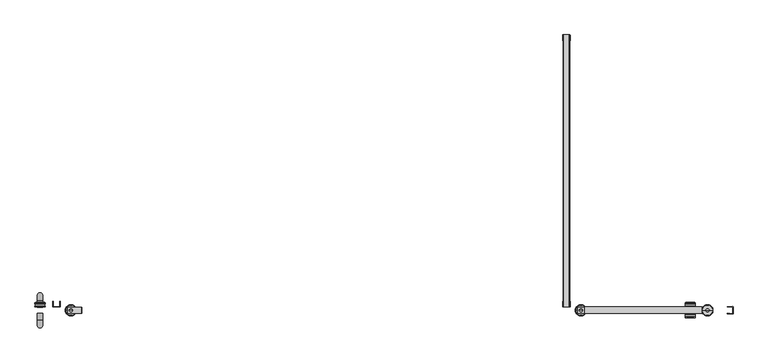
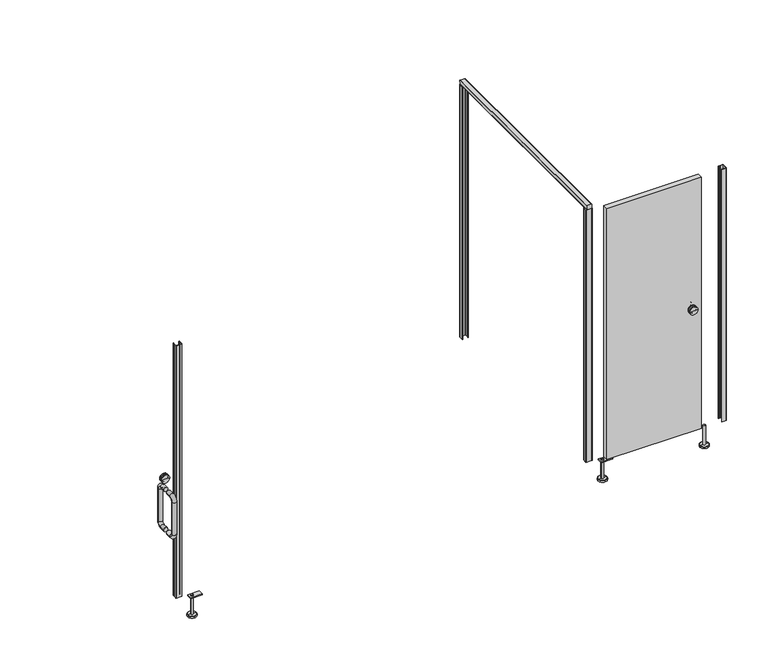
"""IFC4 building model written with IfcOpenShell, lengths in millimetres: proxy geometry, Partition_EuroStyle-Bradley_Corp-1AMB-4StandardStall-NEP-LOFT : Partition_EuroStyle-Bradley_Corp-1AMB-4StandardStall-NEP-LOFT."""

from ifc_helpers import new_model, si_unit, point, frame, frame_2d, origin, place, context, project, spatial, polyline, circle_curve, ellipse_curve, trimmed, segment, composite_curve, outline, extrude, source, transform, mapped, element, save
from ifc_brep_helpers import plane_surface, cylinder_surface, revolved_surface, advanced_brep


def specialty_equipment_88d71848(model_context):
    return source(origin(), model_context, "Body", "SolidModel", [
        extrude(outline(composite_curve([segment(polyline([(2032.9666591, 3638.6203701), (2005.7492965, 3639.0741806)]), True, "CONTINUOUS"), segment(trimmed(circle_curve(frame_2d((2005.762, 3639.8360747)), 0.762), [point((2005.7492965, 3639.0741806))], [point((2005.0, 3639.8360747))], False, "CARTESIAN"), True, "CONTINUOUS"), segment(polyline([(2005.0, 3639.8360747), (2005.0, 3673.3733505)]), True, "CONTINUOUS"), segment(trimmed(circle_curve(frame_2d((2005.79375, 3673.3733505)), 0.79375), [point((2005.0, 3673.3733505))], [point((2005.7805172, 3674.1669902))], False, "CARTESIAN"), True, "CONTINUOUS"), segment(polyline([(2005.7805172, 3674.1669902), (2032.9666591, 3674.6202802)]), True, "CONTINUOUS"), segment(trimmed(circle_curve(frame_2d((2033.0000015, 3672.6205597)), 1.9999985), [point((2032.9666591, 3674.6202802))], [point((2035.0, 3672.6205597))], False, "CARTESIAN"), True, "CONTINUOUS"), segment(polyline([(2035.0, 3672.6205597), (2035.0, 3640.6200907)]), True, "CONTINUOUS"), segment(trimmed(circle_curve(frame_2d((2033.0000015, 3640.6200907)), 1.9999985), [point((2035.0, 3640.6200907))], [point((2032.9666591, 3638.6203701))], False, "CARTESIAN"), True, "CONTINUOUS")], self_intersect=False)), frame((0.0, -1524.0, 0.0), z_axis=(0.0, 1.0, 0.0), x_axis=(0.0, 0.0, 1.0)), (0.0, 0.0, 1.0), 1524.0),
        extrude(outline(composite_curve([segment(polyline([(3636.1288796, -1491.4999998), (3637.6274652, -1491.4999998)]), True, "CONTINUOUS"), segment(trimmed(circle_curve(frame_2d((3637.6238978, -1492.4990918)), 0.9990984), [point((3637.6274652, -1491.4999998))], [point((3638.0975504, -1493.3787798))], False, "CARTESIAN"), True, "CONTINUOUS"), segment(polyline([(3638.0975504, -1493.3787798), (3637.9764404, -1500.6424298)]), True, "CONTINUOUS"), segment(trimmed(circle_curve(frame_2d((3637.4588945, -1501.4999449)), 1.0015917), [point((3637.9764404, -1500.6424298))], [point((3637.9475604, -1502.3742398))], False, "CARTESIAN"), True, "CONTINUOUS"), segment(polyline([(3637.9475604, -1502.3742398), (3637.6535049, -1520.0104531)]), True, "CONTINUOUS"), segment(trimmed(circle_curve(frame_2d((3639.6536968, -1519.9997796)), 2.0002204), [point((3637.6535049, -1520.0104531))], [point((3639.6536968, -1522.0))], True, "CARTESIAN"), True, "CONTINUOUS"), segment(polyline([(3639.6536968, -1522.0), (3673.5379958, -1522.0)]), True, "CONTINUOUS"), segment(trimmed(circle_curve(frame_2d((3673.5870154, -1520.0009061)), 1.9996948), [point((3673.5379958, -1522.0))], [point((3675.58671, -1520.0))], True, "CARTESIAN"), True, "CONTINUOUS"), segment(polyline([(3675.58671, -1520.0), (3675.2926587, -1502.3739987)]), True, "CONTINUOUS"), segment(trimmed(circle_curve(frame_2d((3675.7817558, -1501.4999449)), 1.0015917), [point((3675.2926587, -1502.3739987))], [point((3675.2642099, -1500.6424298))], False, "CARTESIAN"), True, "CONTINUOUS"), segment(polyline([(3675.2642099, -1500.6424298), (3675.1430999, -1493.3787798)]), True, "CONTINUOUS"), segment(trimmed(circle_curve(frame_2d((3675.6167525, -1492.4990918)), 0.9990984), [point((3675.1430999, -1493.3787798))], [point((3675.6131851, -1491.4999998))], False, "CARTESIAN"), True, "CONTINUOUS"), segment(polyline([(3675.6131851, -1491.4999998), (3677.1117707, -1491.4999998), (3677.6201098, -1521.97082)]), True, "CONTINUOUS"), segment(trimmed(circle_curve(frame_2d((3675.5909298, -1521.97082)), 2.02918), [point((3677.6201098, -1521.97082))], [point((3675.5909298, -1524.0))], False, "CARTESIAN"), True, "CONTINUOUS"), segment(polyline([(3675.5909298, -1524.0), (3637.6497205, -1524.0)]), True, "CONTINUOUS"), segment(trimmed(circle_curve(frame_2d((3637.6497205, -1521.97082)), 2.02918), [point((3637.6497205, -1524.0))], [point((3635.6205405, -1521.97082))], False, "CARTESIAN"), True, "CONTINUOUS"), segment(polyline([(3635.6205405, -1521.97082), (3636.1288796, -1491.4999998)]), True, "CONTINUOUS")], self_intersect=False)), frame((0.0, 0.0, 150.0), z_axis=(0.0, 0.0, 1.0), x_axis=(1.0, 0.0, 0.0)), (0.0, 0.0, 1.0), 1855.0),
        extrude(outline(polyline([(146.0000008, 3719.518346), (138.0669895, 3719.518346), (138.0669895, 3799.3655791), (146.0000008, 3799.267017), (146.0000008, 3719.518346)])), frame((0.0, -1559.4621549, 0.0), z_axis=(0.0, 1.0, 0.0), x_axis=(0.0, 0.0, 1.0)), (0.0, 0.0, 1.0), 34.925),
        advanced_brep(
        [(3747.118345, -1541.9996549, 150.0000008), (3729.1183456, -1541.9996549, 150.0000008), (3729.1183456, -1541.9996549, 12.0000001), (3747.118345, -1541.9996549, 12.0000001), (3738.1183453, -1541.9996549, 150.0000008), (3769.1183443, -1541.9996549, 0.0), (3707.1183464, -1541.9996549, 0.0), (3738.1183453, -1541.9996549, 0.0), (3769.1183443, -1541.9996549, 10.0000001), (3707.1183464, -1541.9996549, 10.0000001), (3767.1159324, -1541.9996549, 12.0000001), (3709.1207583, -1541.9996549, 12.0000001)],
        [
            (0, 1, circle_curve(frame((3738.1183453, -1541.9996549, 150.0000008), z_axis=(0.0, 0.0, -1.0), x_axis=(-1.0, 0.0, 0.0)), 8.9999997)),
            (1, 2),
            (2, 3, circle_curve(frame((3738.1183453, -1541.9996549, 12.0000001), z_axis=(0.0, 0.0, 1.0), x_axis=(-1.0, 0.0, 0.0)), 8.9999997)),
            (3, 0),
            (1, 0, circle_curve(frame((3738.1183453, -1541.9996549, 150.0000008), z_axis=(0.0, 0.0, -1.0), x_axis=(-1.0, 0.0, 0.0)), 8.9999997)),
            (3, 2, circle_curve(frame((3738.1183453, -1541.9996549, 12.0000001), z_axis=(0.0, 0.0, 1.0), x_axis=(-1.0, 0.0, 0.0)), 8.9999997)),
            (4, 1),
            (0, 4),
            (5, 6, circle_curve(frame((3738.1183453, -1541.9996549, 0.0), z_axis=(0.0, 0.0, -1.0), x_axis=(-1.0, 0.0, 0.0)), 30.9999989)),
            (6, 7),
            (7, 5),
            (6, 5, circle_curve(frame((3738.1183453, -1541.9996549, 0.0), z_axis=(0.0, 0.0, -1.0), x_axis=(-1.0, 0.0, 0.0)), 30.9999989)),
            (8, 9, circle_curve(frame((3738.1183453, -1541.9996549, 10.0000001), z_axis=(0.0, 0.0, -1.0), x_axis=(-1.0, 0.0, 0.0)), 30.9999989)),
            (9, 6),
            (5, 8),
            (9, 8, circle_curve(frame((3738.1183453, -1541.9996549, 10.0000001), z_axis=(0.0, 0.0, -1.0), x_axis=(-1.0, 0.0, 0.0)), 30.9999989)),
            (10, 11, circle_curve(frame((3738.1183453, -1541.9996549, 12.0000001), z_axis=(0.0, 0.0, -1.0), x_axis=(-1.0, 0.0, 0.0)), 28.997587)),
            (11, 9),
            (8, 10),
            (11, 10, circle_curve(frame((3738.1183453, -1541.9996549, 12.0000001), z_axis=(0.0, 0.0, -1.0), x_axis=(-1.0, 0.0, 0.0)), 28.997587)),
            (2, 11),
            (10, 3),
        ],
        [
            cylinder_surface(frame((3738.1183453, -1541.9996549, 0.0), z_axis=(0.0, 0.0, 1.0), x_axis=(-1.0, 0.0, 0.0)), 8.9999997),
            plane_surface(frame((3738.1183453, -1541.9996549, 150.0000008), z_axis=(0.0, 0.0, 1.0), x_axis=(-1.0, 0.0, 0.0))),
            plane_surface(frame((3738.1183453, -1541.9996549, 0.0), z_axis=(0.0, 0.0, -1.0), x_axis=(-1.0, 0.0, 0.0))),
            cylinder_surface(frame((3738.1183453, -1541.9996549, 0.0), z_axis=(0.0, 0.0, 1.0), x_axis=(-1.0, 0.0, 0.0)), 30.9999989),
            revolved_surface(polyline([(3707.1183464, -1541.9996549, 10.0000001), (3709.1207583, -1541.9996549, 12.0000001)]), (3738.1183453, -1541.9996549, 0.0), (0.0, 0.0, 1.0)),
            plane_surface(frame((3738.1183453, -1541.9996549, 12.0000001), z_axis=(0.0, 0.0, 1.0), x_axis=(-1.0, 0.0, 0.0))),
        ],
        [
            (0, [[1, 2, 3, 4]]),
            (0, [[5, -4, 6, -2]]),
            (1, [[7, -1, 8]]),
            (1, [[-8, -5, -7]]),
            (2, [[9, 10, 11]]),
            (2, [[12, -11, -10]]),
            (3, [[13, 14, -9, 15]]),
            (3, [[16, -15, -12, -14]]),
            (4, [[17, 18, -13, 19]]),
            (4, [[20, -19, -16, -18]]),
            (5, [[-3, 21, -17, 22]]),
            (5, [[-6, -22, -20, -21]]),
        ],
    ),
        advanced_brep(
        [(4321.1503912, -1524.0098174, 1050.0), (4378.3003912, -1524.0098174, 1050.0), (4349.7253912, -1524.0098174, 1050.0), (4321.1503912, -1519.2473174, 1050.0), (4378.3003912, -1519.2473174, 1050.0), (4321.1503912, -1500.1973174, 1050.0), (4378.3003912, -1500.1973174, 1050.0), (4378.3003912, -1504.9598174, 1050.0), (4321.1503912, -1504.9598174, 1050.0), (4376.7128912, -1506.5473174, 1050.0), (4322.7378912, -1506.5473174, 1050.0), (4376.7128912, -1517.6598174, 1050.0), (4322.7378912, -1517.6598174, 1050.0), (4349.7253912, -1498.6098174, 1050.0)],
        [
            (0, 1, circle_curve(frame((4349.7253912, -1524.0098174, 1050.0), z_axis=(0.0, -1.0, 0.0), x_axis=(1.0000000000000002, 0.0, 0.0)), 28.575)),
            (1, 2),
            (2, 0),
            (1, 0, circle_curve(frame((4349.7253912, -1524.0098174, 1050.0), z_axis=(0.0, -1.0, 0.0), x_axis=(1.0000000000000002, 0.0, 0.0)), 28.575)),
            (3, 4, circle_curve(frame((4349.7253912, -1519.2473174, 1050.0), z_axis=(0.0, -1.0, 0.0), x_axis=(1.0000000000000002, 0.0, 0.0)), 28.575)),
            (4, 1),
            (0, 3),
            (4, 3, circle_curve(frame((4349.7253912, -1519.2473174, 1050.0), z_axis=(0.0, -1.0, 0.0), x_axis=(1.0000000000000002, 0.0, 0.0)), 28.575)),
            (5, 6, circle_curve(frame((4349.7253912, -1500.1973174, 1050.0), z_axis=(0.0, -1.0, 0.0), x_axis=(1.0000000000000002, 0.0, 0.0)), 28.575)),
            (6, 7),
            (7, 8, circle_curve(frame((4349.7253912, -1504.9598174, 1050.0), z_axis=(0.0, 1.0, 0.0), x_axis=(1.0000000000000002, 0.0, 0.0)), 28.575)),
            (8, 5),
            (6, 5, circle_curve(frame((4349.7253912, -1500.1973174, 1050.0), z_axis=(0.0, -1.0, 0.0), x_axis=(1.0000000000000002, 0.0, 0.0)), 28.575)),
            (8, 7, circle_curve(frame((4349.7253912, -1504.9598174, 1050.0), z_axis=(0.0, 1.0, 0.0), x_axis=(1.0000000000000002, 0.0, 0.0)), 28.575)),
            (7, 9, circle_curve(frame((4378.3003912, -1506.5473174, 1050.0), z_axis=(0.0, 0.0, 1.0), x_axis=(1.0000000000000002, 0.0, 0.0)), 1.5875)),
            (9, 10, circle_curve(frame((4349.7253912, -1506.5473174, 1050.0), z_axis=(0.0, 1.0, 0.0), x_axis=(1.0000000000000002, 0.0, 0.0)), 26.9875)),
            (10, 8, circle_curve(frame((4321.1503912, -1506.5473174, 1050.0), z_axis=(0.0, 0.0, 1.0), x_axis=(-1.0000000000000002, 0.0, 0.0)), 1.5875)),
            (10, 9, circle_curve(frame((4349.7253912, -1506.5473174, 1050.0), z_axis=(0.0, 1.0, 0.0), x_axis=(1.0000000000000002, 0.0, 0.0)), 26.9875)),
            (9, 11),
            (11, 12, circle_curve(frame((4349.7253912, -1517.6598174, 1050.0), z_axis=(0.0, 1.0, 0.0), x_axis=(1.0000000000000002, 0.0, 0.0)), 26.9875)),
            (12, 10),
            (12, 11, circle_curve(frame((4349.7253912, -1517.6598174, 1050.0), z_axis=(0.0, 1.0, 0.0), x_axis=(1.0000000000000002, 0.0, 0.0)), 26.9875)),
            (11, 4, circle_curve(frame((4378.3003912, -1517.6598174, 1050.0), z_axis=(0.0, 0.0, 1.0), x_axis=(1.0000000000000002, 0.0, 0.0)), 1.5875)),
            (3, 12, circle_curve(frame((4321.1503912, -1517.6598174, 1050.0), z_axis=(0.0, 0.0, 1.0), x_axis=(-1.0000000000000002, 0.0, 0.0)), 1.5875)),
            (13, 6, circle_curve(frame((4353.4195146, -1690.0843466, 1050.0), z_axis=(0.0, 0.0, -1.0), x_axis=(1.0000000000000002, 0.0, 0.0)), 191.5101613)),
            (5, 13, circle_curve(frame((4346.0312679, -1690.0843466, 1050.0), z_axis=(0.0, 0.0, -1.0), x_axis=(-1.0000000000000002, 0.0, 0.0)), 191.5101613)),
        ],
        [
            plane_surface(frame((4349.7253912, -1524.0098174, 1050.0), z_axis=(0.0, -1.0, 0.0), x_axis=(1.0, 0.0, 0.0))),
            cylinder_surface(frame((4349.7253912, -1524.0098174, 1050.0), z_axis=(0.0, 1.0000000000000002, 0.0), x_axis=(1.0000000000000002, 0.0, 0.0)), 28.575),
            revolved_surface(trimmed(ellipse_curve(frame((4378.3003912, -1506.5473174, 1050.0), z_axis=(0.0, 0.0, -1.0), x_axis=(1.0000000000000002, 0.0, 0.0)), 1.5875, 1.5875), [point((4376.7128912, -1506.5473174, 1050.0))], [point((4378.3003912, -1504.9598174, 1050.0))], True, "CARTESIAN"), (4349.7253912, -1524.0098174, 1050.0), (0.0, 1.0000000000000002, 0.0)),
            cylinder_surface(frame((4349.7253912, -1524.0098174, 1050.0), z_axis=(0.0, 1.0000000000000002, 0.0), x_axis=(1.0000000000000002, 0.0, 0.0)), 26.9875),
            revolved_surface(trimmed(ellipse_curve(frame((4378.3003912, -1517.6598174, 1050.0), z_axis=(0.0, 0.0, -1.0), x_axis=(1.0000000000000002, 0.0, 0.0)), 1.5875, 1.5875), [point((4378.3003912, -1519.2473174, 1050.0))], [point((4376.7128912, -1517.6598174, 1050.0))], True, "CARTESIAN"), (4349.7253912, -1524.0098174, 1050.0), (0.0, 1.0000000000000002, 0.0)),
            revolved_surface(trimmed(ellipse_curve(frame((4353.4195146, -1690.0843466, 1050.0), z_axis=(0.0, 0.0, 1.0), x_axis=(1.0000000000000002, 0.0, 0.0)), 191.5101613, 191.5101613), [point((4378.3003912, -1500.1973174, 1050.0))], [point((4349.7253912, -1498.6098174, 1050.0))], True, "CARTESIAN"), (4349.7253912, -1524.0098174, 1050.0), (0.0, 1.0000000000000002, 0.0)),
        ],
        [
            (0, [[1, 2, 3]]),
            (0, [[4, -3, -2]]),
            (1, [[5, 6, -1, 7]]),
            (1, [[8, -7, -4, -6]]),
            (1, [[9, 10, 11, 12]]),
            (1, [[13, -12, 14, -10]]),
            (2, [[-11, 15, 16, 17]]),
            (2, [[-14, -17, 18, -15]]),
            (3, [[-16, 19, 20, 21]]),
            (3, [[-18, -21, 22, -19]]),
            (4, [[-20, 23, -5, 24]]),
            (4, [[-22, -24, -8, -23]]),
            (5, [[25, -9, 26]]),
            (5, [[-26, -13, -25]]),
        ],
    ),
        advanced_brep(
        [(4349.7253912, -1560.0098174, 1050.0), (4378.3003912, -1560.0098174, 1050.0), (4321.1503912, -1560.0098174, 1050.0), (4378.3003912, -1564.7723174, 1050.0), (4321.1503912, -1564.7723174, 1050.0), (4321.1503912, -1579.0598174, 1050.0), (4378.3003912, -1579.0598174, 1050.0), (4378.3003912, -1583.8223174, 1050.0), (4321.1503912, -1583.8223174, 1050.0), (4322.7378912, -1577.4723174, 1050.0), (4376.7128912, -1577.4723174, 1050.0), (4322.7378912, -1566.3598174, 1050.0), (4376.7128912, -1566.3598174, 1050.0), (4349.7253912, -1585.4098174, 1050.0)],
        [
            (0, 1),
            (1, 2, circle_curve(frame((4349.7253912, -1560.0098174, 1050.0), z_axis=(0.0, 1.0, 0.0), x_axis=(1.0000000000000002, 0.0, 0.0)), 28.575)),
            (2, 0),
            (2, 1, circle_curve(frame((4349.7253912, -1560.0098174, 1050.0), z_axis=(0.0, 1.0, 0.0), x_axis=(1.0000000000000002, 0.0, 0.0)), 28.575)),
            (1, 3),
            (3, 4, circle_curve(frame((4349.7253912, -1564.7723174, 1050.0), z_axis=(0.0, 1.0, 0.0), x_axis=(1.0000000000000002, 0.0, 0.0)), 28.575)),
            (4, 2),
            (4, 3, circle_curve(frame((4349.7253912, -1564.7723174, 1050.0), z_axis=(0.0, 1.0, 0.0), x_axis=(1.0000000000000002, 0.0, 0.0)), 28.575)),
            (5, 6, circle_curve(frame((4349.7253912, -1579.0598174, 1050.0), z_axis=(0.0, -1.0, 0.0), x_axis=(1.0000000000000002, 0.0, 0.0)), 28.575)),
            (6, 7),
            (7, 8, circle_curve(frame((4349.7253912, -1583.8223174, 1050.0), z_axis=(0.0, 1.0, 0.0), x_axis=(1.0000000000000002, 0.0, 0.0)), 28.575)),
            (8, 5),
            (6, 5, circle_curve(frame((4349.7253912, -1579.0598174, 1050.0), z_axis=(0.0, -1.0, 0.0), x_axis=(1.0000000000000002, 0.0, 0.0)), 28.575)),
            (8, 7, circle_curve(frame((4349.7253912, -1583.8223174, 1050.0), z_axis=(0.0, 1.0, 0.0), x_axis=(1.0000000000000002, 0.0, 0.0)), 28.575)),
            (9, 10, circle_curve(frame((4349.7253912, -1577.4723174, 1050.0), z_axis=(0.0, -1.0, 0.0), x_axis=(1.0000000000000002, 0.0, 0.0)), 26.9875)),
            (10, 6, circle_curve(frame((4378.3003912, -1577.4723174, 1050.0), z_axis=(0.0, 0.0, 1.0), x_axis=(1.0000000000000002, 0.0, 0.0)), 1.5875)),
            (5, 9, circle_curve(frame((4321.1503912, -1577.4723174, 1050.0), z_axis=(0.0, 0.0, 1.0), x_axis=(-1.0000000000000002, 0.0, 0.0)), 1.5875)),
            (10, 9, circle_curve(frame((4349.7253912, -1577.4723174, 1050.0), z_axis=(0.0, -1.0, 0.0), x_axis=(1.0000000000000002, 0.0, 0.0)), 26.9875)),
            (11, 12, circle_curve(frame((4349.7253912, -1566.3598174, 1050.0), z_axis=(0.0, -1.0, 0.0), x_axis=(1.0000000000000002, 0.0, 0.0)), 26.9875)),
            (12, 10),
            (9, 11),
            (12, 11, circle_curve(frame((4349.7253912, -1566.3598174, 1050.0), z_axis=(0.0, -1.0, 0.0), x_axis=(1.0000000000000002, 0.0, 0.0)), 26.9875)),
            (3, 12, circle_curve(frame((4378.3003912, -1566.3598174, 1050.0), z_axis=(0.0, 0.0, 1.0), x_axis=(1.0000000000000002, 0.0, 0.0)), 1.5875)),
            (11, 4, circle_curve(frame((4321.1503912, -1566.3598174, 1050.0), z_axis=(0.0, 0.0, 1.0), x_axis=(-1.0000000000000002, 0.0, 0.0)), 1.5875)),
            (7, 13, circle_curve(frame((4353.4195146, -1393.9352882, 1050.0), z_axis=(0.0, 0.0, -1.0), x_axis=(1.0000000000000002, 0.0, 0.0)), 191.5101613)),
            (13, 8, circle_curve(frame((4346.0312679, -1393.9352882, 1050.0), z_axis=(0.0, 0.0, -1.0), x_axis=(-1.0000000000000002, 0.0, 0.0)), 191.5101613)),
        ],
        [
            plane_surface(frame((4349.7253912, -1560.0098174, 1050.0), z_axis=(0.0, 1.0, 0.0), x_axis=(1.0, 0.0, 0.0))),
            cylinder_surface(frame((4349.7253912, -1560.0098174, 1050.0), z_axis=(0.0, 1.0000000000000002, 0.0), x_axis=(1.0000000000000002, 0.0, 0.0)), 28.575),
            revolved_surface(trimmed(ellipse_curve(frame((4378.3003912, -1577.4723174, 1050.0), z_axis=(0.0, 0.0, -1.0), x_axis=(1.0000000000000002, 0.0, 0.0)), 1.5875, 1.5875), [point((4378.3003912, -1579.0598174, 1050.0))], [point((4376.7128912, -1577.4723174, 1050.0))], True, "CARTESIAN"), (4349.7253912, -1560.0098174, 1050.0), (0.0, 1.0000000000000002, 0.0)),
            cylinder_surface(frame((4349.7253912, -1560.0098174, 1050.0), z_axis=(0.0, 1.0000000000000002, 0.0), x_axis=(1.0000000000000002, 0.0, 0.0)), 26.9875),
            revolved_surface(trimmed(ellipse_curve(frame((4378.3003912, -1566.3598174, 1050.0), z_axis=(0.0, 0.0, -1.0), x_axis=(1.0000000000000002, 0.0, 0.0)), 1.5875, 1.5875), [point((4376.7128912, -1566.3598174, 1050.0))], [point((4378.3003912, -1564.7723174, 1050.0))], True, "CARTESIAN"), (4349.7253912, -1560.0098174, 1050.0), (0.0, 1.0000000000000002, 0.0)),
            revolved_surface(trimmed(ellipse_curve(frame((4353.4195146, -1393.9352882, 1050.0), z_axis=(0.0, 0.0, 1.0), x_axis=(1.0000000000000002, 0.0, 0.0)), 191.5101613, 191.5101613), [point((4349.7253912, -1585.4098174, 1050.0))], [point((4378.3003912, -1583.8223174, 1050.0))], True, "CARTESIAN"), (4349.7253912, -1560.0098174, 1050.0), (0.0, 1.0000000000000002, 0.0)),
        ],
        [
            (0, [[1, 2, 3]]),
            (0, [[-3, 4, -1]]),
            (1, [[-2, 5, 6, 7]]),
            (1, [[-4, -7, 8, -5]]),
            (1, [[9, 10, 11, 12]]),
            (1, [[13, -12, 14, -10]]),
            (2, [[15, 16, -9, 17]]),
            (2, [[18, -17, -13, -16]]),
            (3, [[19, 20, -15, 21]]),
            (3, [[22, -21, -18, -20]]),
            (4, [[-6, 23, -19, 24]]),
            (4, [[-8, -24, -22, -23]]),
            (5, [[-11, 25, 26]]),
            (5, [[-14, -26, -25]]),
        ],
    ),
        extrude(outline(polyline([(3758.6203251, -1523.9894923), (4413.2253912, -1523.9894923), (4413.2253912, -1560.0098174), (3758.6203251, -1560.0098174), (3758.6203251, -1523.9894923)])), frame((0.0, 0.0, 150.1179687), z_axis=(0.0, 0.0, 1.0), x_axis=(1.0, 0.0, 0.0)), (0.0, 0.0, 1.0), 1845.8820313),
        extrude(outline(composite_curve([segment(polyline([(3636.1288796, -32.5000002), (3635.6205405, -2.02918)]), True, "CONTINUOUS"), segment(trimmed(circle_curve(frame_2d((3637.6497205, -2.02918)), 2.02918), [point((3635.6205405, -2.02918))], [point((3637.6497205, 0.0))], False, "CARTESIAN"), True, "CONTINUOUS"), segment(polyline([(3637.6497205, 0.0), (3675.5909298, 0.0)]), True, "CONTINUOUS"), segment(trimmed(circle_curve(frame_2d((3675.5909298, -2.02918)), 2.02918), [point((3675.5909298, 0.0))], [point((3677.6201098, -2.02918))], False, "CARTESIAN"), True, "CONTINUOUS"), segment(polyline([(3677.6201098, -2.02918), (3677.1117707, -32.5000002), (3675.6131851, -32.5000002)]), True, "CONTINUOUS"), segment(trimmed(circle_curve(frame_2d((3675.6167525, -31.5009082)), 0.9990984), [point((3675.6131851, -32.5000002))], [point((3675.1430999, -30.6212202))], False, "CARTESIAN"), True, "CONTINUOUS"), segment(polyline([(3675.1430999, -30.6212202), (3675.2642099, -23.3575702)]), True, "CONTINUOUS"), segment(trimmed(circle_curve(frame_2d((3675.7817558, -22.5000551)), 1.0015917), [point((3675.2642099, -23.3575702))], [point((3675.2926587, -21.6260013))], False, "CARTESIAN"), True, "CONTINUOUS"), segment(polyline([(3675.2926587, -21.6260013), (3675.58671, -4.0)]), True, "CONTINUOUS"), segment(trimmed(circle_curve(frame_2d((3673.5870154, -3.9990939)), 1.9996948), [point((3675.58671, -4.0))], [point((3673.5379958, -2.0))], True, "CARTESIAN"), True, "CONTINUOUS"), segment(polyline([(3673.5379958, -2.0), (3639.6536968, -2.0)]), True, "CONTINUOUS"), segment(trimmed(circle_curve(frame_2d((3639.6536968, -4.0002204)), 2.0002204), [point((3639.6536968, -2.0))], [point((3637.6535049, -3.9895469))], True, "CARTESIAN"), True, "CONTINUOUS"), segment(polyline([(3637.6535049, -3.9895469), (3637.9475604, -21.6257602)]), True, "CONTINUOUS"), segment(trimmed(circle_curve(frame_2d((3637.4588945, -22.5000551)), 1.0015917), [point((3637.9475604, -21.6257602))], [point((3637.9764404, -23.3575702))], False, "CARTESIAN"), True, "CONTINUOUS"), segment(polyline([(3637.9764404, -23.3575702), (3638.0975504, -30.6212202)]), True, "CONTINUOUS"), segment(trimmed(circle_curve(frame_2d((3637.6238978, -31.5009082)), 0.9990984), [point((3638.0975504, -30.6212202))], [point((3637.6274652, -32.5000002))], False, "CARTESIAN"), True, "CONTINUOUS"), segment(polyline([(3637.6274652, -32.5000002), (3636.1288796, -32.5000002)]), True, "CONTINUOUS")], self_intersect=False)), frame((0.0, 0.0, 150.0), z_axis=(0.0, 0.0, 1.0), x_axis=(1.0, 0.0, 0.0)), (0.0, 0.0, 1.0), 1855.0),
        extrude(outline(composite_curve([segment(polyline([(4556.5203249, -1562.4911004), (4556.5203249, -1560.9925148)]), True, "CONTINUOUS"), segment(trimmed(circle_curve(frame_2d((4557.519417, -1560.9960822)), 0.9990984), [point((4556.5203249, -1560.9925148))], [point((4558.3991049, -1560.5224296))], False, "CARTESIAN"), True, "CONTINUOUS"), segment(polyline([(4558.3991049, -1560.5224296), (4565.662755, -1560.6435396)]), True, "CONTINUOUS"), segment(trimmed(circle_curve(frame_2d((4566.5202701, -1561.1610855)), 1.0015917), [point((4565.662755, -1560.6435396))], [point((4567.394565, -1560.6724196))], False, "CARTESIAN"), True, "CONTINUOUS"), segment(polyline([(4567.394565, -1560.6724196), (4585.0307782, -1560.9664751)]), True, "CONTINUOUS"), segment(trimmed(circle_curve(frame_2d((4585.0201048, -1558.9662832)), 2.0002204), [point((4585.0307782, -1560.9664751))], [point((4587.0203252, -1558.9662832))], True, "CARTESIAN"), True, "CONTINUOUS"), segment(polyline([(4587.0203252, -1558.9662832), (4587.0203251, -1525.0819842)]), True, "CONTINUOUS"), segment(trimmed(circle_curve(frame_2d((4585.0212312, -1525.0329646)), 1.9996948), [point((4587.0203251, -1525.0819842))], [point((4585.0203251, -1523.03327))], True, "CARTESIAN"), True, "CONTINUOUS"), segment(polyline([(4585.0203251, -1523.03327), (4567.3943238, -1523.3273213)]), True, "CONTINUOUS"), segment(trimmed(circle_curve(frame_2d((4566.5202701, -1522.8382242)), 1.0015917), [point((4567.3943238, -1523.3273213))], [point((4565.662755, -1523.3557701))], False, "CARTESIAN"), True, "CONTINUOUS"), segment(polyline([(4565.662755, -1523.3557701), (4558.3991049, -1523.4768801)]), True, "CONTINUOUS"), segment(trimmed(circle_curve(frame_2d((4557.519417, -1523.0032275)), 0.9990984), [point((4558.3991049, -1523.4768801))], [point((4556.5203249, -1523.0067949))], False, "CARTESIAN"), True, "CONTINUOUS"), segment(polyline([(4556.5203249, -1523.0067949), (4556.5203249, -1521.5082093), (4586.9911451, -1520.9998702)]), True, "CONTINUOUS"), segment(trimmed(circle_curve(frame_2d((4586.9911451, -1523.0290502)), 2.02918), [point((4586.9911451, -1520.9998702))], [point((4589.0203251, -1523.0290502))], False, "CARTESIAN"), True, "CONTINUOUS"), segment(polyline([(4589.0203251, -1523.0290502), (4589.0203251, -1560.9702595)]), True, "CONTINUOUS"), segment(trimmed(circle_curve(frame_2d((4586.9911451, -1560.9702595)), 2.02918), [point((4589.0203251, -1560.9702595))], [point((4586.9911451, -1562.9994395))], False, "CARTESIAN"), True, "CONTINUOUS"), segment(polyline([(4586.9911451, -1562.9994395), (4556.5203249, -1562.4911004)]), True, "CONTINUOUS")], self_intersect=False)), frame((0.0, 0.0, 150.0), z_axis=(0.0, 0.0, 1.0), x_axis=(1.0, 0.0, 0.0)), (0.0, 0.0, 1.0), 1855.0),
        advanced_brep(
        [(4436.6453255, -1541.9996549, 150.0000008), (4454.6453248, -1541.9996549, 150.0000008), (4454.6453248, -1541.9996549, 12.0000001), (4436.6453255, -1541.9996549, 12.0000001), (4445.6453251, -1541.9996549, 150.0000008), (4414.6453262, -1541.9996549, 0.0), (4476.6453241, -1541.9996549, 0.0), (4445.6453251, -1541.9996549, 0.0), (4414.6453262, -1541.9996549, 10.0000001), (4476.6453241, -1541.9996549, 10.0000001), (4416.6477381, -1541.9996549, 12.0000001), (4474.6429122, -1541.9996549, 12.0000001)],
        [
            (0, 1, circle_curve(frame((4445.6453251, -1541.9996549, 150.0000008), z_axis=(0.0, 0.0, -1.0), x_axis=(1.0, 0.0, 0.0)), 8.9999997)),
            (1, 2),
            (2, 3, circle_curve(frame((4445.6453251, -1541.9996549, 12.0000001), z_axis=(0.0, 0.0, 1.0), x_axis=(1.0, 0.0, 0.0)), 8.9999997)),
            (3, 0),
            (1, 0, circle_curve(frame((4445.6453251, -1541.9996549, 150.0000008), z_axis=(0.0, 0.0, -1.0), x_axis=(1.0, 0.0, 0.0)), 8.9999997)),
            (3, 2, circle_curve(frame((4445.6453251, -1541.9996549, 12.0000001), z_axis=(0.0, 0.0, 1.0), x_axis=(1.0, 0.0, 0.0)), 8.9999997)),
            (4, 1),
            (0, 4),
            (5, 6, circle_curve(frame((4445.6453251, -1541.9996549, 0.0), z_axis=(0.0, 0.0, -1.0), x_axis=(1.0, 0.0, 0.0)), 30.9999989)),
            (6, 7),
            (7, 5),
            (6, 5, circle_curve(frame((4445.6453251, -1541.9996549, 0.0), z_axis=(0.0, 0.0, -1.0), x_axis=(1.0, 0.0, 0.0)), 30.9999989)),
            (8, 9, circle_curve(frame((4445.6453251, -1541.9996549, 10.0000001), z_axis=(0.0, 0.0, -1.0), x_axis=(1.0, 0.0, 0.0)), 30.9999989)),
            (9, 6),
            (5, 8),
            (9, 8, circle_curve(frame((4445.6453251, -1541.9996549, 10.0000001), z_axis=(0.0, 0.0, -1.0), x_axis=(1.0, 0.0, 0.0)), 30.9999989)),
            (10, 11, circle_curve(frame((4445.6453251, -1541.9996549, 12.0000001), z_axis=(0.0, 0.0, -1.0), x_axis=(1.0, 0.0, 0.0)), 28.997587)),
            (11, 9),
            (8, 10),
            (11, 10, circle_curve(frame((4445.6453251, -1541.9996549, 12.0000001), z_axis=(0.0, 0.0, -1.0), x_axis=(1.0, 0.0, 0.0)), 28.997587)),
            (2, 11),
            (10, 3),
        ],
        [
            cylinder_surface(frame((4445.6453251, -1541.9996549, 0.0), z_axis=(0.0, 0.0, 1.0), x_axis=(1.0, 0.0, 0.0)), 8.9999997),
            plane_surface(frame((4445.6453251, -1541.9996549, 150.0000008), z_axis=(0.0, 0.0, 1.0), x_axis=(1.0, 0.0, 0.0))),
            plane_surface(frame((4445.6453251, -1541.9996549, 0.0), z_axis=(0.0, 0.0, -1.0), x_axis=(1.0, 0.0, 0.0))),
            cylinder_surface(frame((4445.6453251, -1541.9996549, 0.0), z_axis=(0.0, 0.0, 1.0), x_axis=(1.0, 0.0, 0.0)), 30.9999989),
            revolved_surface(polyline([(4476.6453241, -1541.9996549, 10.0000001), (4474.6429122, -1541.9996549, 12.0000001)]), (4445.6453251, -1541.9996549, 0.0), (0.0, 0.0, 1.0)),
            plane_surface(frame((4445.6453251, -1541.9996549, 12.0000001), z_axis=(0.0, 0.0, 1.0), x_axis=(1.0, 0.0, 0.0))),
        ],
        [
            (0, [[1, 2, 3, 4]]),
            (0, [[5, -4, 6, -2]]),
            (1, [[7, -1, 8]]),
            (1, [[-8, -5, -7]]),
            (2, [[9, 10, 11]]),
            (2, [[12, -11, -10]]),
            (3, [[13, 14, -9, 15]]),
            (3, [[16, -15, -12, -14]]),
            (4, [[17, 18, -13, 19]]),
            (4, [[20, -19, -16, -18]]),
            (5, [[-3, 21, -17, 22]]),
            (5, [[-6, -22, -20, -21]]),
        ],
    ),
        extrude(outline(composite_curve([segment(polyline([(784.918717, -1491.4999998), (786.4173026, -1491.4999998)]), True, "CONTINUOUS"), segment(trimmed(circle_curve(frame_2d((786.4137352, -1492.4990918)), 0.9990984), [point((786.4173026, -1491.4999998))], [point((786.8873879, -1493.3787798))], False, "CARTESIAN"), True, "CONTINUOUS"), segment(polyline([(786.8873879, -1493.3787798), (786.7662779, -1500.6424298)]), True, "CONTINUOUS"), segment(trimmed(circle_curve(frame_2d((786.248732, -1501.4999449)), 1.0015917), [point((786.7662779, -1500.6424298))], [point((786.7373979, -1502.3742398))], False, "CARTESIAN"), True, "CONTINUOUS"), segment(polyline([(786.7373979, -1502.3742398), (786.4433424, -1520.0104531)]), True, "CONTINUOUS"), segment(trimmed(circle_curve(frame_2d((788.4435342, -1519.9997796)), 2.0002204), [point((786.4433424, -1520.0104531))], [point((788.4435342, -1522.0))], True, "CARTESIAN"), True, "CONTINUOUS"), segment(polyline([(788.4435342, -1522.0), (822.3278332, -1522.0)]), True, "CONTINUOUS"), segment(trimmed(circle_curve(frame_2d((822.3768528, -1520.0009061)), 1.9996948), [point((822.3278332, -1522.0))], [point((824.3765475, -1520.0))], True, "CARTESIAN"), True, "CONTINUOUS"), segment(polyline([(824.3765475, -1520.0), (824.0824961, -1502.3739987)]), True, "CONTINUOUS"), segment(trimmed(circle_curve(frame_2d((824.5715932, -1501.4999449)), 1.0015917), [point((824.0824961, -1502.3739987))], [point((824.0540473, -1500.6424298))], False, "CARTESIAN"), True, "CONTINUOUS"), segment(polyline([(824.0540473, -1500.6424298), (823.9329373, -1493.3787798)]), True, "CONTINUOUS"), segment(trimmed(circle_curve(frame_2d((824.4065899, -1492.4990918)), 0.9990984), [point((823.9329373, -1493.3787798))], [point((824.4030225, -1491.4999998))], False, "CARTESIAN"), True, "CONTINUOUS"), segment(polyline([(824.4030225, -1491.4999998), (825.9016081, -1491.4999998), (826.4099473, -1521.97082)]), True, "CONTINUOUS"), segment(trimmed(circle_curve(frame_2d((824.3807672, -1521.97082)), 2.02918), [point((826.4099473, -1521.97082))], [point((824.3807672, -1524.0))], False, "CARTESIAN"), True, "CONTINUOUS"), segment(polyline([(824.3807672, -1524.0), (786.4395579, -1524.0)]), True, "CONTINUOUS"), segment(trimmed(circle_curve(frame_2d((786.4395579, -1521.97082)), 2.02918), [point((786.4395579, -1524.0))], [point((784.4103779, -1521.97082))], False, "CARTESIAN"), True, "CONTINUOUS"), segment(polyline([(784.4103779, -1521.97082), (784.918717, -1491.4999998)]), True, "CONTINUOUS")], self_intersect=False)), frame((0.0, 0.0, 150.0), z_axis=(0.0, 0.0, 1.0), x_axis=(1.0, 0.0, 0.0)), (0.0, 0.0, 1.0), 1855.0),
        extrude(outline(polyline([(146.0000008, 867.8203258), (138.0669895, 867.8203258), (138.0669895, 947.6675589), (146.0000008, 947.5689968), (146.0000008, 867.8203258)])), frame((0.0, -1559.4621549, 0.0), z_axis=(0.0, 1.0, 0.0), x_axis=(0.0, 0.0, 1.0)), (0.0, 0.0, 1.0), 34.925),
        advanced_brep(
        [(895.4203248, -1541.9996549, 150.0000008), (877.4203255, -1541.9996549, 150.0000008), (877.4203255, -1541.9996549, 12.0000001), (895.4203248, -1541.9996549, 12.0000001), (886.4203251, -1541.9996549, 150.0000008), (917.4203241, -1541.9996549, 0.0), (855.4203262, -1541.9996549, 0.0), (886.4203251, -1541.9996549, 0.0), (917.4203241, -1541.9996549, 10.0000001), (855.4203262, -1541.9996549, 10.0000001), (915.4179122, -1541.9996549, 12.0000001), (857.4227381, -1541.9996549, 12.0000001)],
        [
            (0, 1, circle_curve(frame((886.4203251, -1541.9996549, 150.0000008), z_axis=(0.0, 0.0, -1.0), x_axis=(-1.0, 0.0, 0.0)), 8.9999997)),
            (1, 2),
            (2, 3, circle_curve(frame((886.4203251, -1541.9996549, 12.0000001), z_axis=(0.0, 0.0, 1.0), x_axis=(-1.0, 0.0, 0.0)), 8.9999997)),
            (3, 0),
            (1, 0, circle_curve(frame((886.4203251, -1541.9996549, 150.0000008), z_axis=(0.0, 0.0, -1.0), x_axis=(-1.0, 0.0, 0.0)), 8.9999997)),
            (3, 2, circle_curve(frame((886.4203251, -1541.9996549, 12.0000001), z_axis=(0.0, 0.0, 1.0), x_axis=(-1.0, 0.0, 0.0)), 8.9999997)),
            (4, 1),
            (0, 4),
            (5, 6, circle_curve(frame((886.4203251, -1541.9996549, 0.0), z_axis=(0.0, 0.0, -1.0), x_axis=(-1.0, 0.0, 0.0)), 30.9999989)),
            (6, 7),
            (7, 5),
            (6, 5, circle_curve(frame((886.4203251, -1541.9996549, 0.0), z_axis=(0.0, 0.0, -1.0), x_axis=(-1.0, 0.0, 0.0)), 30.9999989)),
            (8, 9, circle_curve(frame((886.4203251, -1541.9996549, 10.0000001), z_axis=(0.0, 0.0, -1.0), x_axis=(-1.0, 0.0, 0.0)), 30.9999989)),
            (9, 6),
            (5, 8),
            (9, 8, circle_curve(frame((886.4203251, -1541.9996549, 10.0000001), z_axis=(0.0, 0.0, -1.0), x_axis=(-1.0, 0.0, 0.0)), 30.9999989)),
            (10, 11, circle_curve(frame((886.4203251, -1541.9996549, 12.0000001), z_axis=(0.0, 0.0, -1.0), x_axis=(-1.0, 0.0, 0.0)), 28.997587)),
            (11, 9),
            (8, 10),
            (11, 10, circle_curve(frame((886.4203251, -1541.9996549, 12.0000001), z_axis=(0.0, 0.0, -1.0), x_axis=(-1.0, 0.0, 0.0)), 28.997587)),
            (2, 11),
            (10, 3),
        ],
        [
            cylinder_surface(frame((886.4203251, -1541.9996549, 0.0), z_axis=(0.0, 0.0, 1.0), x_axis=(-1.0, 0.0, 0.0)), 8.9999997),
            plane_surface(frame((886.4203251, -1541.9996549, 150.0000008), z_axis=(0.0, 0.0, 1.0), x_axis=(-1.0, 0.0, 0.0))),
            plane_surface(frame((886.4203251, -1541.9996549, 0.0), z_axis=(0.0, 0.0, -1.0), x_axis=(-1.0, 0.0, 0.0))),
            cylinder_surface(frame((886.4203251, -1541.9996549, 0.0), z_axis=(0.0, 0.0, 1.0), x_axis=(-1.0, 0.0, 0.0)), 30.9999989),
            revolved_surface(polyline([(855.4203262, -1541.9996549, 10.0000001), (857.4227381, -1541.9996549, 12.0000001)]), (886.4203251, -1541.9996549, 0.0), (0.0, 0.0, 1.0)),
            plane_surface(frame((886.4203251, -1541.9996549, 12.0000001), z_axis=(0.0, 0.0, 1.0), x_axis=(-1.0, 0.0, 0.0))),
        ],
        [
            (0, [[1, 2, 3, 4]]),
            (0, [[5, -4, 6, -2]]),
            (1, [[7, -1, 8]]),
            (1, [[-8, -5, -7]]),
            (2, [[9, 10, 11]]),
            (2, [[12, -11, -10]]),
            (3, [[13, 14, -9, 15]]),
            (3, [[16, -15, -12, -14]]),
            (4, [[17, 18, -13, 19]]),
            (4, [[20, -19, -16, -18]]),
            (5, [[-3, 21, -17, 22]]),
            (5, [[-6, -22, -20, -21]]),
        ],
    ),
        advanced_brep(
        [(698.7, -1524.0, 975.0), (728.7, -1524.0, 975.0), (698.7, -1524.0, 679.0), (728.7, -1524.0, 679.0), (728.7, -1488.0, 975.0), (698.7, -1488.0, 975.0), (728.7, -1458.0, 945.0), (728.7, -1458.0, 709.0), (698.7, -1458.0, 709.0), (698.7, -1458.0, 945.0), (728.7, -1488.0, 679.0), (698.7, -1488.0, 679.0)],
        [
            (0, 1, circle_curve(frame((713.7, -1524.0, 975.0), z_axis=(0.0, -1.0, 0.0), x_axis=(1.0, 0.0, 0.0)), 15.0)),
            (1, 0, circle_curve(frame((713.7, -1524.0, 975.0), z_axis=(0.0, -1.0, 0.0), x_axis=(1.0, 0.0, 0.0)), 15.0)),
            (2, 3, circle_curve(frame((713.7, -1524.0, 679.0), z_axis=(0.0, -1.0, 0.0), x_axis=(1.0, 0.0, 0.0)), 15.0)),
            (3, 2, circle_curve(frame((713.7, -1524.0, 679.0), z_axis=(0.0, -1.0, 0.0), x_axis=(1.0, 0.0, 0.0)), 15.0)),
            (1, 4),
            (4, 5, circle_curve(frame((713.7, -1488.0, 975.0), z_axis=(0.0, -1.0, 0.0), x_axis=(1.0, 0.0, 0.0)), 15.0)),
            (5, 0),
            (5, 4, circle_curve(frame((713.7, -1488.0, 975.0), z_axis=(0.0, -1.0, 0.0), x_axis=(1.0, 0.0, 0.0)), 15.0)),
            (6, 7),
            (7, 8, circle_curve(frame((713.7, -1458.0, 709.0), z_axis=(0.0, 0.0, 1.0), x_axis=(1.0, 0.0, 0.0)), 15.0)),
            (8, 9),
            (9, 6, circle_curve(frame((713.7, -1458.0, 945.0), z_axis=(0.0, 0.0, -1.0), x_axis=(1.0, 0.0, 0.0)), 15.0)),
            (8, 7, circle_curve(frame((713.7, -1458.0, 709.0), z_axis=(0.0, 0.0, 1.0), x_axis=(1.0, 0.0, 0.0)), 15.0)),
            (6, 9, circle_curve(frame((713.7, -1458.0, 945.0), z_axis=(0.0, 0.0, -1.0), x_axis=(1.0, 0.0, 0.0)), 15.0)),
            (10, 3),
            (2, 11),
            (11, 10, circle_curve(frame((713.7, -1488.0, 679.0), z_axis=(0.0, -1.0, 0.0), x_axis=(1.0, 0.0, 0.0)), 15.0)),
            (10, 11, circle_curve(frame((713.7, -1488.0, 679.0), z_axis=(0.0, -1.0, 0.0), x_axis=(1.0, 0.0, 0.0)), 15.0)),
            (9, 5, circle_curve(frame((698.7, -1488.0, 945.0), z_axis=(1.0, 0.0, 0.0), x_axis=(0.0, 0.0, 1.0)), 30.0)),
            (4, 6, circle_curve(frame((728.7, -1488.0, 945.0), z_axis=(-1.0, 0.0, 0.0), x_axis=(0.0, 0.0, 1.0)), 30.0)),
            (11, 8, circle_curve(frame((698.7, -1488.0, 709.0), z_axis=(1.0, 0.0, 0.0), x_axis=(0.0, 1.0, 0.0)), 30.0)),
            (7, 10, circle_curve(frame((728.7, -1488.0, 709.0), z_axis=(-1.0, 0.0, 0.0), x_axis=(0.0, 1.0, 0.0)), 30.0)),
        ],
        [
            plane_surface(frame((713.7, -1524.0, 975.0), z_axis=(0.0, -1.0, 0.0), x_axis=(1.0, 0.0, 0.0))),
            plane_surface(frame((713.7, -1524.0, 679.0), z_axis=(0.0, -1.0, 0.0), x_axis=(1.0, 0.0, 0.0))),
            cylinder_surface(frame((713.7, -1524.0, 975.0), z_axis=(0.0, -1.0, 0.0), x_axis=(1.0, 0.0, 0.0)), 15.0),
            cylinder_surface(frame((713.7, -1458.0, 945.0), z_axis=(0.0, 0.0, 1.0), x_axis=(1.0, 0.0, 0.0)), 15.0),
            cylinder_surface(frame((713.7, -1488.0, 679.0), z_axis=(0.0, 1.0, 0.0), x_axis=(1.0, 0.0, 0.0)), 15.0),
            revolved_surface(trimmed(ellipse_curve(frame((713.7, -1488.0, 975.0), z_axis=(0.0, 1.0, 0.0), x_axis=(1.0, 0.0, 0.0)), 15.0, 15.0), [point((698.7, -1488.0, 975.0))], [point((728.7, -1488.0, 975.0))], True, "CARTESIAN"), (713.7, -1488.0, 945.0), (1.0, 0.0, 0.0)),
            revolved_surface(trimmed(ellipse_curve(frame((713.7, -1488.0, 975.0), z_axis=(0.0, 1.0, 0.0), x_axis=(1.0, 0.0, 0.0)), 15.0, 15.0), [point((728.7, -1488.0, 975.0))], [point((698.7, -1488.0, 975.0))], True, "CARTESIAN"), (713.7, -1488.0, 945.0), (1.0, 0.0, 0.0)),
            revolved_surface(trimmed(ellipse_curve(frame((713.7, -1458.0, 709.0), z_axis=(0.0, 0.0, -1.0), x_axis=(1.0, 0.0, 0.0)), 15.0, 15.0), [point((698.7, -1458.0, 709.0))], [point((728.7, -1458.0, 709.0))], True, "CARTESIAN"), (713.7, -1488.0, 709.0), (1.0, 0.0, 0.0)),
            revolved_surface(trimmed(ellipse_curve(frame((713.7, -1458.0, 709.0), z_axis=(0.0, 0.0, -1.0), x_axis=(1.0, 0.0, 0.0)), 15.0, 15.0), [point((728.7, -1458.0, 709.0))], [point((698.7, -1458.0, 709.0))], True, "CARTESIAN"), (713.7, -1488.0, 709.0), (1.0, 0.0, 0.0)),
        ],
        [
            (0, [[1, 2]]),
            (1, [[3, 4]]),
            (2, [[5, 6, 7, -2]]),
            (2, [[-7, 8, -5, -1]]),
            (3, [[9, 10, 11, 12]]),
            (3, [[-11, 13, -9, 14]]),
            (4, [[15, -3, 16, 17]]),
            (4, [[-16, -4, -15, 18]]),
            (5, [[-12, 19, -6, 20]]),
            (6, [[-14, -20, -8, -19]]),
            (7, [[-17, 21, -10, 22]]),
            (8, [[-18, -22, -13, -21]]),
        ],
    ),
        advanced_brep(
        [(698.7, -1560.0203251, 975.0), (728.7, -1560.0203251, 975.0), (698.7, -1560.0203251, 679.0), (728.7, -1560.0203251, 679.0), (698.7, -1596.0203251, 975.0), (728.7, -1596.0203251, 975.0), (728.7, -1626.0203251, 945.0), (698.7, -1626.0203251, 945.0), (698.7, -1626.0203251, 709.0), (728.7, -1626.0203251, 709.0), (728.7, -1596.0203251, 679.0), (698.7, -1596.0203251, 679.0)],
        [
            (0, 1, circle_curve(frame((713.7, -1560.0203251, 975.0), z_axis=(0.0, 1.0, 0.0), x_axis=(1.0, 0.0, 0.0)), 15.0)),
            (1, 0, circle_curve(frame((713.7, -1560.0203251, 975.0), z_axis=(0.0, 1.0, 0.0), x_axis=(1.0, 0.0, 0.0)), 15.0)),
            (2, 3, circle_curve(frame((713.7, -1560.0203251, 679.0), z_axis=(0.0, 1.0, 0.0), x_axis=(1.0, 0.0, 0.0)), 15.0)),
            (3, 2, circle_curve(frame((713.7, -1560.0203251, 679.0), z_axis=(0.0, 1.0, 0.0), x_axis=(1.0, 0.0, 0.0)), 15.0)),
            (0, 4),
            (4, 5, circle_curve(frame((713.7, -1596.0203251, 975.0), z_axis=(0.0, 1.0, 0.0), x_axis=(1.0, 0.0, 0.0)), 15.0)),
            (5, 1),
            (5, 4, circle_curve(frame((713.7, -1596.0203251, 975.0), z_axis=(0.0, 1.0, 0.0), x_axis=(1.0, 0.0, 0.0)), 15.0)),
            (6, 7, circle_curve(frame((713.7, -1626.0203251, 945.0), z_axis=(0.0, 0.0, -1.0), x_axis=(1.0, 0.0, 0.0)), 15.0)),
            (7, 8),
            (8, 9, circle_curve(frame((713.7, -1626.0203251, 709.0), z_axis=(0.0, 0.0, 1.0), x_axis=(1.0, 0.0, 0.0)), 15.0)),
            (9, 6),
            (7, 6, circle_curve(frame((713.7, -1626.0203251, 945.0), z_axis=(0.0, 0.0, -1.0), x_axis=(1.0, 0.0, 0.0)), 15.0)),
            (9, 8, circle_curve(frame((713.7, -1626.0203251, 709.0), z_axis=(0.0, 0.0, 1.0), x_axis=(1.0, 0.0, 0.0)), 15.0)),
            (10, 11, circle_curve(frame((713.7, -1596.0203251, 679.0), z_axis=(0.0, 1.0, 0.0), x_axis=(1.0, 0.0, 0.0)), 15.0)),
            (11, 2),
            (3, 10),
            (11, 10, circle_curve(frame((713.7, -1596.0203251, 679.0), z_axis=(0.0, 1.0, 0.0), x_axis=(1.0, 0.0, 0.0)), 15.0)),
            (6, 5, circle_curve(frame((728.7, -1596.0203251, 945.0), z_axis=(-1.0, 0.0, 0.0), x_axis=(0.0, 0.0, 1.0)), 30.0)),
            (4, 7, circle_curve(frame((698.7, -1596.0203251, 945.0), z_axis=(1.0, 0.0, 0.0), x_axis=(0.0, 0.0, 1.0)), 30.0)),
            (10, 9, circle_curve(frame((728.7, -1596.0203251, 709.0), z_axis=(-1.0, 0.0, 0.0), x_axis=(0.0, -1.0, 0.0)), 30.0)),
            (8, 11, circle_curve(frame((698.7, -1596.0203251, 709.0), z_axis=(1.0, 0.0, 0.0), x_axis=(0.0, -1.0, 0.0)), 30.0)),
        ],
        [
            plane_surface(frame((713.7, -1560.0203251, 975.0), z_axis=(0.0, 1.0, 0.0), x_axis=(1.0, 0.0, 0.0))),
            plane_surface(frame((713.7, -1560.0203251, 679.0), z_axis=(0.0, 1.0, 0.0), x_axis=(1.0, 0.0, 0.0))),
            cylinder_surface(frame((713.7, -1560.0203251, 975.0), z_axis=(0.0, 1.0, 0.0), x_axis=(1.0, 0.0, 0.0)), 15.0),
            cylinder_surface(frame((713.7, -1626.0203251, 945.0), z_axis=(0.0, 0.0, 1.0), x_axis=(1.0, 0.0, 0.0)), 15.0),
            cylinder_surface(frame((713.7, -1596.0203251, 679.0), z_axis=(0.0, -1.0, 0.0), x_axis=(1.0, 0.0, 0.0)), 15.0),
            revolved_surface(trimmed(ellipse_curve(frame((713.7, -1596.0203251, 975.0), z_axis=(0.0, 1.0, 0.0), x_axis=(1.0, 0.0, 0.0)), 15.0, 15.0), [point((698.7, -1596.0203251, 975.0))], [point((728.7, -1596.0203251, 975.0))], True, "CARTESIAN"), (713.7, -1596.0203251, 945.0), (1.0, 0.0, 0.0)),
            revolved_surface(trimmed(ellipse_curve(frame((713.7, -1596.0203251, 975.0), z_axis=(0.0, 1.0, 0.0), x_axis=(1.0, 0.0, 0.0)), 15.0, 15.0), [point((728.7, -1596.0203251, 975.0))], [point((698.7, -1596.0203251, 975.0))], True, "CARTESIAN"), (713.7, -1596.0203251, 945.0), (1.0, 0.0, 0.0)),
            revolved_surface(trimmed(ellipse_curve(frame((713.7, -1626.0203251, 709.0), z_axis=(0.0, 0.0, 1.0), x_axis=(1.0, 0.0, 0.0)), 15.0, 15.0), [point((698.7, -1626.0203251, 709.0))], [point((728.7, -1626.0203251, 709.0))], True, "CARTESIAN"), (713.7, -1596.0203251, 709.0), (1.0, 0.0, 0.0)),
            revolved_surface(trimmed(ellipse_curve(frame((713.7, -1626.0203251, 709.0), z_axis=(0.0, 0.0, 1.0), x_axis=(1.0, 0.0, 0.0)), 15.0, 15.0), [point((728.7, -1626.0203251, 709.0))], [point((698.7, -1626.0203251, 709.0))], True, "CARTESIAN"), (713.7, -1596.0203251, 709.0), (1.0, 0.0, 0.0)),
        ],
        [
            (0, [[1, 2]]),
            (1, [[3, 4]]),
            (2, [[-1, 5, 6, 7]]),
            (2, [[-2, -7, 8, -5]]),
            (3, [[9, 10, 11, 12]]),
            (3, [[13, -12, 14, -10]]),
            (4, [[15, 16, -4, 17]]),
            (4, [[18, -17, -3, -16]]),
            (5, [[19, -6, 20, -9]]),
            (6, [[-20, -8, -19, -13]]),
            (7, [[21, -11, 22, -15]]),
            (8, [[-22, -14, -21, -18]]),
        ],
    ),
        advanced_brep(
        [(685.125, -1524.0203251, 1050.0), (742.275, -1524.0203251, 1050.0), (713.7, -1524.0203251, 1050.0), (685.125, -1519.2578251, 1050.0), (742.275, -1519.2578251, 1050.0), (685.125, -1500.2078251, 1050.0), (742.275, -1500.2078251, 1050.0), (742.275, -1504.9703251, 1050.0), (685.125, -1504.9703251, 1050.0), (740.6875, -1506.5578251, 1050.0), (686.7125, -1506.5578251, 1050.0), (740.6875, -1517.6703251, 1050.0), (686.7125, -1517.6703251, 1050.0), (713.7, -1498.6203251, 1050.0)],
        [
            (0, 1, circle_curve(frame((713.7, -1524.0203251, 1050.0), z_axis=(0.0, -1.0, 0.0), x_axis=(1.0, 0.0, 0.0)), 28.575)),
            (1, 2),
            (2, 0),
            (1, 0, circle_curve(frame((713.7, -1524.0203251, 1050.0), z_axis=(0.0, -1.0, 0.0), x_axis=(1.0, 0.0, 0.0)), 28.575)),
            (3, 4, circle_curve(frame((713.7, -1519.2578251, 1050.0), z_axis=(0.0, -1.0, 0.0), x_axis=(1.0, 0.0, 0.0)), 28.575)),
            (4, 1),
            (0, 3),
            (4, 3, circle_curve(frame((713.7, -1519.2578251, 1050.0), z_axis=(0.0, -1.0, 0.0), x_axis=(1.0, 0.0, 0.0)), 28.575)),
            (5, 6, circle_curve(frame((713.7, -1500.2078251, 1050.0), z_axis=(0.0, -1.0, 0.0), x_axis=(1.0, 0.0, 0.0)), 28.575)),
            (6, 7),
            (7, 8, circle_curve(frame((713.7, -1504.9703251, 1050.0), z_axis=(0.0, 1.0, 0.0), x_axis=(1.0, 0.0, 0.0)), 28.575)),
            (8, 5),
            (6, 5, circle_curve(frame((713.7, -1500.2078251, 1050.0), z_axis=(0.0, -1.0, 0.0), x_axis=(1.0, 0.0, 0.0)), 28.575)),
            (8, 7, circle_curve(frame((713.7, -1504.9703251, 1050.0), z_axis=(0.0, 1.0, 0.0), x_axis=(1.0, 0.0, 0.0)), 28.575)),
            (7, 9, circle_curve(frame((742.275, -1506.5578251, 1050.0), z_axis=(0.0, 0.0, 1.0), x_axis=(1.0, 0.0, 0.0)), 1.5875)),
            (9, 10, circle_curve(frame((713.7, -1506.5578251, 1050.0), z_axis=(0.0, 1.0, 0.0), x_axis=(1.0, 0.0, 0.0)), 26.9875)),
            (10, 8, circle_curve(frame((685.125, -1506.5578251, 1050.0), z_axis=(0.0, 0.0, 1.0), x_axis=(-1.0, 0.0, 0.0)), 1.5875)),
            (10, 9, circle_curve(frame((713.7, -1506.5578251, 1050.0), z_axis=(0.0, 1.0, 0.0), x_axis=(1.0, 0.0, 0.0)), 26.9875)),
            (9, 11),
            (11, 12, circle_curve(frame((713.7, -1517.6703251, 1050.0), z_axis=(0.0, 1.0, 0.0), x_axis=(1.0, 0.0, 0.0)), 26.9875)),
            (12, 10),
            (12, 11, circle_curve(frame((713.7, -1517.6703251, 1050.0), z_axis=(0.0, 1.0, 0.0), x_axis=(1.0, 0.0, 0.0)), 26.9875)),
            (11, 4, circle_curve(frame((742.275, -1517.6703251, 1050.0), z_axis=(0.0, 0.0, 1.0), x_axis=(1.0, 0.0, 0.0)), 1.5875)),
            (3, 12, circle_curve(frame((685.125, -1517.6703251, 1050.0), z_axis=(0.0, 0.0, 1.0), x_axis=(-1.0, 0.0, 0.0)), 1.5875)),
            (13, 6, circle_curve(frame((717.3941234, -1690.0948544, 1050.0), z_axis=(0.0, 0.0, -1.0), x_axis=(1.0, 0.0, 0.0)), 191.5101613)),
            (5, 13, circle_curve(frame((710.0058766, -1690.0948544, 1050.0), z_axis=(0.0, 0.0, -1.0), x_axis=(-1.0, 0.0, 0.0)), 191.5101613)),
        ],
        [
            plane_surface(frame((713.7, -1524.0203251, 1050.0), z_axis=(0.0, -1.0, 0.0), x_axis=(1.0, 0.0, 0.0))),
            cylinder_surface(frame((713.7, -1524.0203251, 1050.0), z_axis=(0.0, 1.0, 0.0), x_axis=(1.0, 0.0, 0.0)), 28.575),
            revolved_surface(trimmed(ellipse_curve(frame((742.275, -1506.5578251, 1050.0), z_axis=(0.0, 0.0, -1.0), x_axis=(1.0, 0.0, 0.0)), 1.5875, 1.5875), [point((740.6875, -1506.5578251, 1050.0))], [point((742.275, -1504.9703251, 1050.0))], True, "CARTESIAN"), (713.7, -1524.0203251, 1050.0), (0.0, 1.0, 0.0)),
            cylinder_surface(frame((713.7, -1524.0203251, 1050.0), z_axis=(0.0, 1.0, 0.0), x_axis=(1.0, 0.0, 0.0)), 26.9875),
            revolved_surface(trimmed(ellipse_curve(frame((742.275, -1517.6703251, 1050.0), z_axis=(0.0, 0.0, -1.0), x_axis=(1.0, 0.0, 0.0)), 1.5875, 1.5875), [point((742.275, -1519.2578251, 1050.0))], [point((740.6875, -1517.6703251, 1050.0))], True, "CARTESIAN"), (713.7, -1524.0203251, 1050.0), (0.0, 1.0, 0.0)),
            revolved_surface(trimmed(ellipse_curve(frame((717.3941234, -1690.0948544, 1050.0), z_axis=(0.0, 0.0, 1.0), x_axis=(1.0, 0.0, 0.0)), 191.5101613, 191.5101613), [point((742.275, -1500.2078251, 1050.0))], [point((713.7, -1498.6203251, 1050.0))], True, "CARTESIAN"), (713.7, -1524.0203251, 1050.0), (0.0, 1.0, 0.0)),
        ],
        [
            (0, [[1, 2, 3]]),
            (0, [[4, -3, -2]]),
            (1, [[5, 6, -1, 7]]),
            (1, [[8, -7, -4, -6]]),
            (1, [[9, 10, 11, 12]]),
            (1, [[13, -12, 14, -10]]),
            (2, [[-11, 15, 16, 17]]),
            (2, [[-14, -17, 18, -15]]),
            (3, [[-16, 19, 20, 21]]),
            (3, [[-18, -21, 22, -19]]),
            (4, [[-20, 23, -5, 24]]),
            (4, [[-22, -24, -8, -23]]),
            (5, [[25, -9, 26]]),
            (5, [[-26, -13, -25]]),
        ],
    ),
    ])


if __name__ == "__main__":
    model = new_model("IFC4")
    model_context = context("Model", 3, world=origin())
    ifc_project = project(units=[si_unit("LENGTHUNIT", "METRE", prefix="MILLI")], contexts=[model_context])
    site = spatial("IfcSite", under=ifc_project)
    building = spatial("IfcBuilding", under=site)
    placement = place(None, origin())
    specialty_equipment_shape = specialty_equipment_88d71848(model_context)
    element("IfcBuildingElementProxy", 1, Name="Partition_EuroStyle-Bradley_Corp-1AMB-4StandardStall-NEP-LOFT : Partition_EuroStyle-Bradley_Corp-1AMB-4StandardStall-NEP-LOFT", ObjectType="Partition_EuroStyle-Bradley_Corp-1AMB-4StandardStall-NEP-LOFT : Partition_EuroStyle-Bradley_Corp-1AMB-4StandardStall-NEP-LOFT", at=placement, inside=building, context=model_context, shape_type="MappedRepresentation", body=[
        mapped(specialty_equipment_shape, transform((0.0, 0.0, 0.0), x_axis=(1.0, 0.0, 0.0), y_axis=(0.0, 1.0, 0.0), z_axis=(0.0, 0.0, 1.0))),
    ])
    save(model, "model.ifc")
